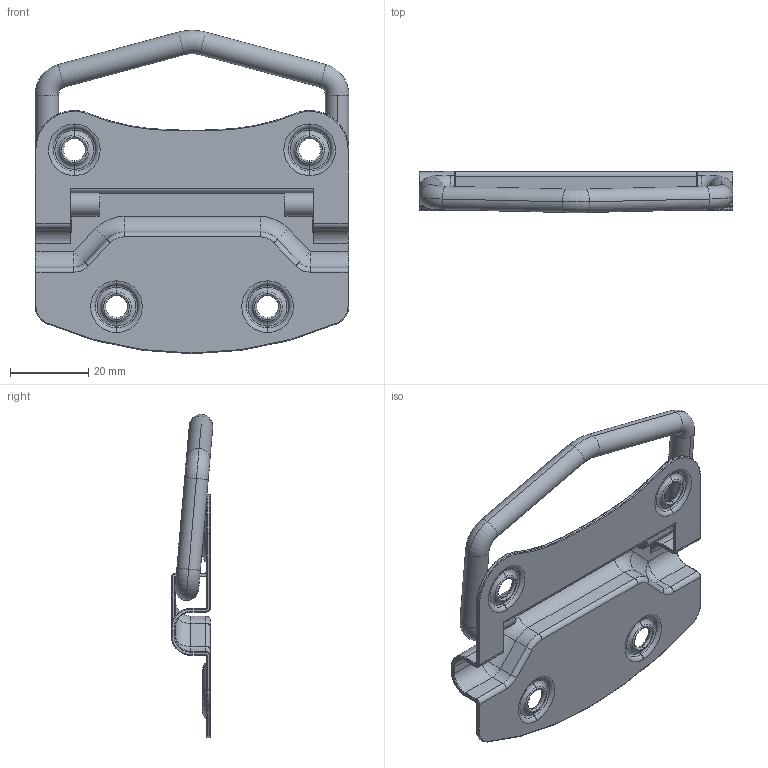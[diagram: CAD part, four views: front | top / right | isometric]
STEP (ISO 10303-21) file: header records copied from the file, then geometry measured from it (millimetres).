
FILE_DESCRIPTION (( 'STEP AP214' ), '1' );
FILE_NAME ('HDT(S)-3103.STEP', '2018-12-03T05:41:51', ( '' ), ( '' ), 'SwSTEP 2.0', 'SolidWorks 2010', '' );
FILE_SCHEMA (( 'AUTOMOTIVE_DESIGN' ));
Length unit declared in the file: millimetre
Products named in the file (3): 基座; HDT(S)-3103; 手柄
Assembly tree (2 placements, depth 2):
  HDT(S)-3103
    基座
    手柄
Bounding box: 80 x 10.59 x 82.47 mm (x, y, z)
Volume: 10353.3 mm3; surface area: 14833 mm2
Topology: 2 solids, 2 shells, 266 faces, 620 edges, 350 vertices
Faces by surface type: torus 142, cylinder 90, plane 30, sphere 4
Entity records: 7738 total; most frequent: DIRECTION 1582, CARTESIAN_POINT 1281, ORIENTED_EDGE 1232, AXIS2_PLACEMENT_3D 703, EDGE_CURVE 616, CIRCLE 432, VERTEX_POINT 350, EDGE_LOOP 274
